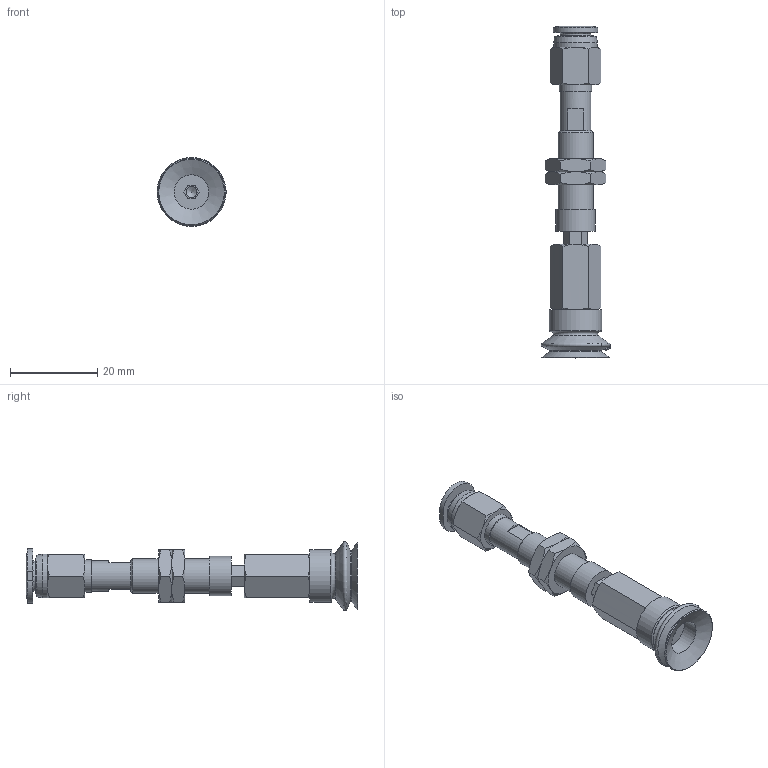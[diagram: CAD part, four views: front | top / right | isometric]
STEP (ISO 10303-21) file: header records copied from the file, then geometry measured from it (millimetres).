
FILE_DESCRIPTION(('STEP AP203'),'1');
FILE_NAME('-O.stp','2025-08-27T06:50:07',(' '),(' '),'Spatial InterOp 3D',' ',' ');
FILE_SCHEMA(('CONFIG_CONTROL_DESIGN'));
Length unit declared in the file: millimetre
Products named in the file (8): BNABPJTH-15-3-※-O; ADAPTER; NAPCTH-10-3-MBODY; Adapter-15-NAPJ; NAPJH-15-3-NUT; NAPJTH-15-3-FBODY; BPJG-15-※; PC-C_06-M5
Assembly tree (8 placements, depth 2):
  BNABPJTH-15-3-※-O
    ADAPTER
    NAPCTH-10-3-MBODY
    Adapter-15-NAPJ
    NAPJH-15-3-NUT  x2
    NAPJTH-15-3-FBODY
    BPJG-15-※
    PC-C_06-M5
Bounding box: 15.99 x 75.98 x 15.79 mm (x, y, z)
Volume: 4250.8 mm3; surface area: 5807.2 mm2
Topology: 7 solids, 10 shells, 198 faces, 422 edges, 253 vertices
Faces by surface type: plane 79, cone 69, cylinder 22, torus 11, bspline 10, sphere 4, revolution 3
Full cylindrical faces by diameter (mm): 2.5 x1, 4 x2, 4.134 x2, 4.6 x1, 5 x2, 7 x2, 7.188 x2, 7.4 x1, 7.9 x1, 8 x2, 8.2 x1, 9 x1, 10 x1, 12 x1
Entity records: 5454 total; most frequent: CARTESIAN_POINT 1669, DIRECTION 699, ORIENTED_EDGE 626, EDGE_CURVE 315, AXIS2_PLACEMENT_3D 297, EDGE_LOOP 243, VERTEX_POINT 215, FACE_OUTER_BOUND 143
